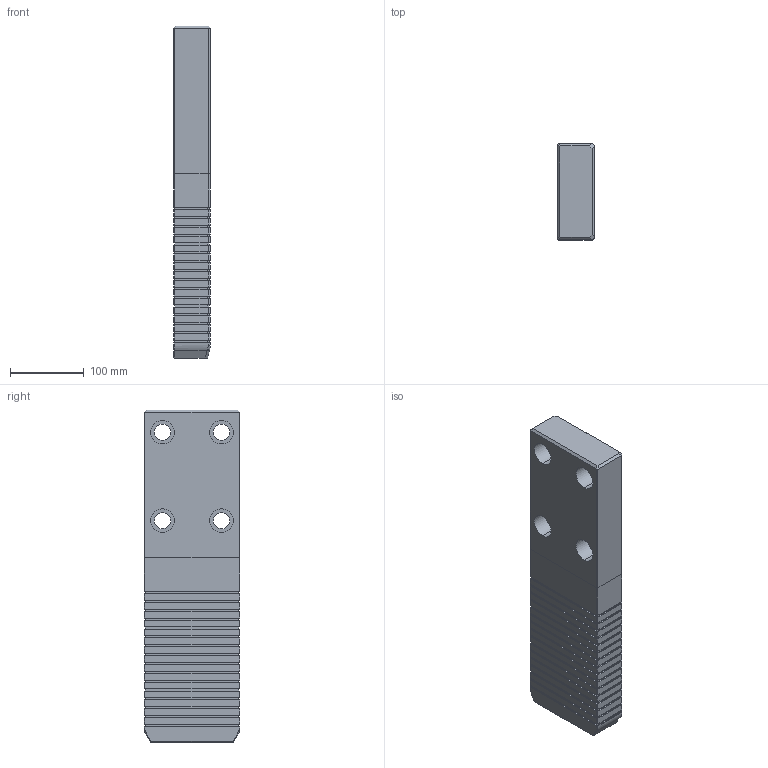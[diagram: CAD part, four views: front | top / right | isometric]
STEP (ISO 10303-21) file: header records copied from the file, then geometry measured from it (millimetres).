
FILE_DESCRIPTION((''),'2;1');
FILE_NAME('','2010-08-30T13:14:10+09:00',('misumi'),(''),'M/STEP i/f 1R2-14','CADmeister v5.1','');
FILE_SCHEMA(('AUTOMOTIVE_DESIGN'));
Length unit declared in the file: millimetre
Products named in the file (1): GWBZ130-450
Bounding box: 50 x 130 x 450 mm (x, y, z)
Volume: 2766504.4 mm3; surface area: 201780.5 mm2
Topology: 1 solids, 1 shells, 356 faces, 929 edges, 612 vertices
Faces by surface type: plane 327, cylinder 21, bspline 6, cone 2
Entity records: 11087 total; most frequent: CARTESIAN_POINT 2240, ORIENTED_EDGE 1858, DIRECTION 1653, EDGE_CURVE 929, LINE 871, VECTOR 871, VERTEX_POINT 612, EDGE_LOOP 401
